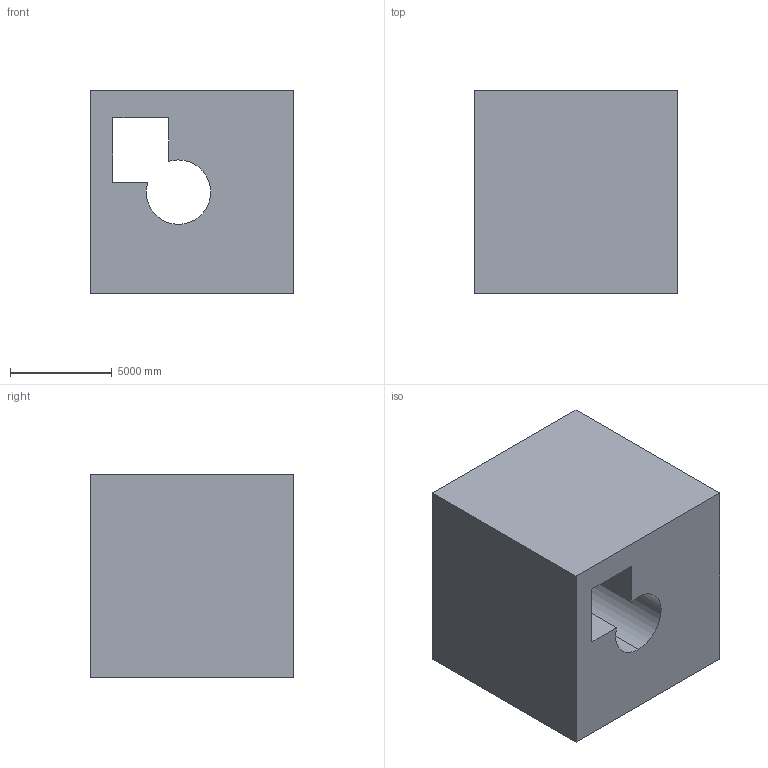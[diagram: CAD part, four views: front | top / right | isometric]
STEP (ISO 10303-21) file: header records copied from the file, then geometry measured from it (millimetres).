
FILE_DESCRIPTION (( 'STEP AP203' ), '1' );
FILE_NAME ('202.STEP', '2022-09-07T12:16:32', ( 'user' ), ( '' ), 'SwSTEP 2.0', 'SolidWorks 2021', '' );
FILE_SCHEMA (( 'CONFIG_CONTROL_DESIGN' ));
Length unit declared in the file: centimetre
Products named in the file (1): 202
Bounding box: 10000 x 10000 x 10000 mm (x, y, z)
Volume: 840485569612.9 mm3; surface area: 750710296.7 mm2
Topology: 1 solids, 1 shells, 13 faces, 33 edges, 22 vertices
Faces by surface type: plane 10, cylinder 3
Entity records: 474 total; most frequent: CARTESIAN_POINT 69, DIRECTION 67, ORIENTED_EDGE 66, EDGE_CURVE 33, LINE 27, VECTOR 27, VERTEX_POINT 22, AXIS2_PLACEMENT_3D 20
